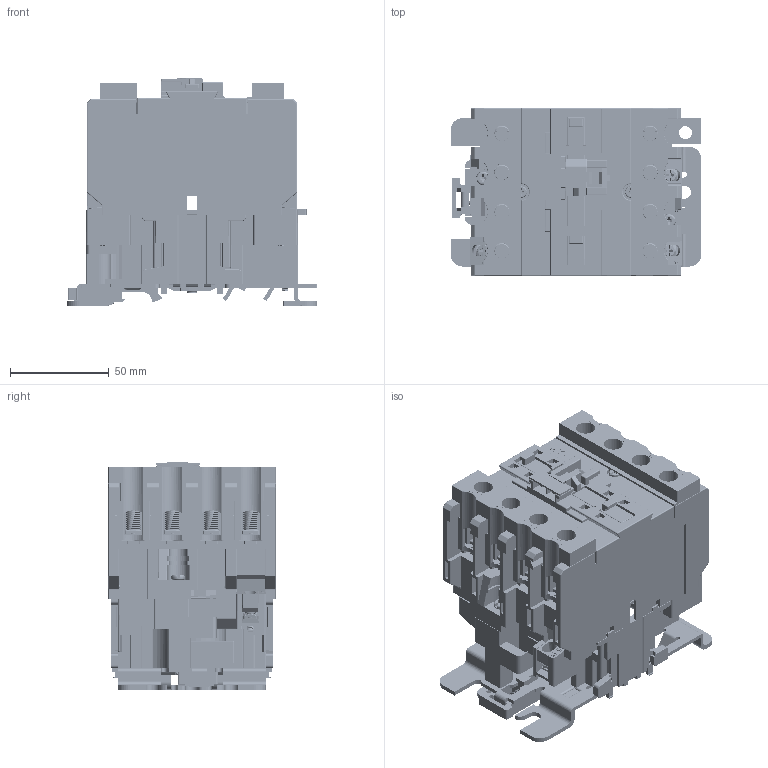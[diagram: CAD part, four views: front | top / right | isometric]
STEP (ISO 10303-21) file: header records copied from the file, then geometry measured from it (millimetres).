
FILE_DESCRIPTION((''),'2;1');
FILE_NAME('CJX2-4000400_ASM','2023-07-28T11:10:02',('Administrator'),(''),'CREO PARAMETRIC BY PTC INC, 2020033','CREO PARAMETRIC BY PTC INC, 2020033','');
FILE_SCHEMA(('CONFIG_CONTROL_DESIGN'));
Products named in the file (40): CJX2-40000; CJX2-40100; CJX2-40200; CJX2-40000_ASM; CJX2-4000; CJX2-400009; CJX2-400010; CJX2-400011; M3_5X9_50002; 7_5X2_600; M3_5X9_50001_ASM; CJX2-400008_ASM; CJX2-400400; CJX2-4004000; CJX2-40040006; CJX2-40_A; CJX2-40002; CJX2-40001; CJX2-400014; CJX2-400015; CJX2-40_AF_ASM; CJX2-09000; M3_5X180001; M3_5X480001; CJX2-400016; CJX2-4000400_ASM
Assembly tree (114 placements, depth 4):
  CJX2-4000400_ASM
    CJX2-40000
    CJX2-40000_ASM
      CJX2-40000  x39
      CJX2-40100  x2
      CJX2-40200
    CJX2-40000  x2
    CJX2-4000
    CJX2-400008_ASM
      CJX2-400009
      CJX2-400010
      CJX2-400011
      M3_5X9_50001_ASM  x3
        M3_5X9_50002
        7_5X2_600
    CJX2-400400
    CJX2-4004000  x2
    CJX2-400400
    CJX2-400400
    CJX2-40040006
    CJX2-4000
    CJX2-40_A
    CJX2-40002  x8
    CJX2-40_AF_ASM
      CJX2-40001
      CJX2-400014
      CJX2-400015
    CJX2-40_AF_ASM
      CJX2-40001
      CJX2-400014
      CJX2-400015
    CJX2-40_AF_ASM
      CJX2-40001
      CJX2-400014
      CJX2-400015
    CJX2-40_AF_ASM
      CJX2-40001
      CJX2-400014
      CJX2-400015
    CJX2-40_AF_ASM
      CJX2-40001
      CJX2-400014
      CJX2-400015
    CJX2-40_AF_ASM
      CJX2-40001
      CJX2-400014
      CJX2-400015
    CJX2-40_AF_ASM
      CJX2-40001
      CJX2-400014
      CJX2-400015
    CJX2-40_AF_ASM
      CJX2-40001
      CJX2-400014
      CJX2-400015
    CJX2-09000
    CJX2-4004000
    CJX2-4004000
    M3_5X180001  x2
    M3_5X480001  x2
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Bounding box: 126.7 x 85 x 114.8 mm (x, y, z)
Volume: 461722.4 mm3; surface area: 374212.4 mm2
Topology: 111 solids, 111 shells, 9252 faces, 25457 edges, 16595 vertices
Faces by surface type: plane 5748, cylinder 2683, bspline 449, sphere 203, torus 142, cone 27
Entity records: 197590 total; most frequent: CARTESIAN_POINT 51954, ORIENTED_EDGE 31004, DIRECTION 28824, EDGE_CURVE 15502, VECTOR 12166, LINE 12166, VERTEX_POINT 10077, AXIS2_PLACEMENT_3D 8329
